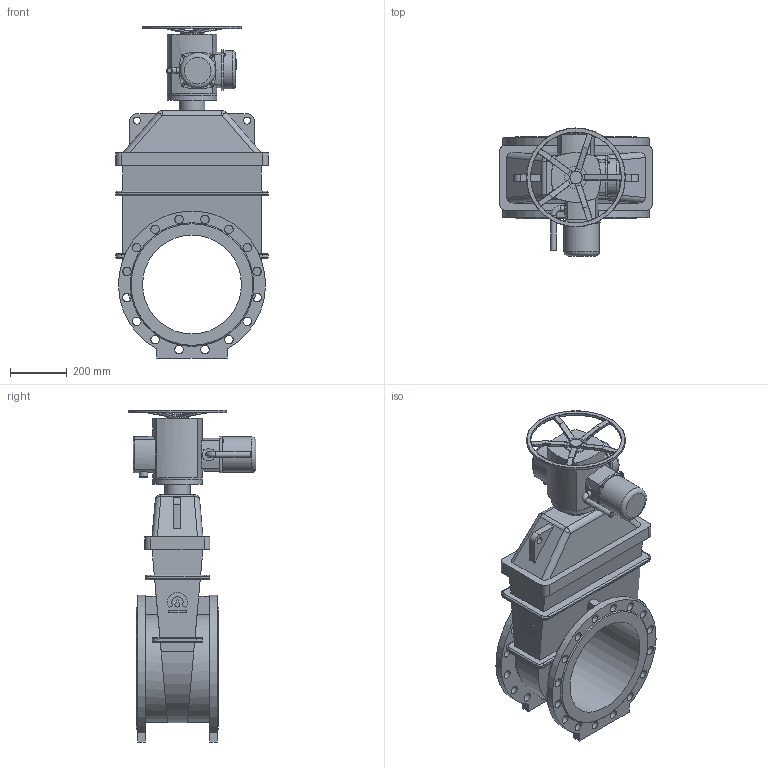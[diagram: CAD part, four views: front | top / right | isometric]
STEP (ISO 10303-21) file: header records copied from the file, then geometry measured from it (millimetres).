
FILE_DESCRIPTION(('STEP AP203'), '1');
FILE_NAME('青溻桄赅 47GVA DN350 PN10_PN16+MT903.Z30', '', ('UNSPECIFIED'), ('UNSPECIFIED'), 'ASCON STEP Converter 1.6', 'ASCON Math Kernel', '');
FILE_SCHEMA(('CONFIG_CONTROL_DESIGN'));
Length unit declared in the file: millimetre
Bounding box: 540 x 453 x 1175 mm (x, y, z)
Volume: 61014884.1 mm3; surface area: 2554496.1 mm2
Topology: 2 solids, 2 shells, 497 faces, 1204 edges, 741 vertices
Faces by surface type: cylinder 239, plane 204, torus 31, bspline 16, cone 7
Full cylindrical faces by diameter (mm): 10 x8, 13.835 x4, 18 x4, 20 x2, 25 x2, 29.22 x1, 30 x34, 34 x1, 36 x1, 40 x1, 80 x1, 90 x1, 100 x2, 125 x1, 135 x1, 175 x2, 350 x2
Entity records: 23053 total; most frequent: CARTESIAN_POINT 8175, ORIENTED_EDGE 2192, DIRECTION 2144, EDGE_CURVE 1096, AXIS2_PLACEMENT_3D 835, VERTEX_POINT 735, EDGE_LOOP 717, FACE_BOUND 529
